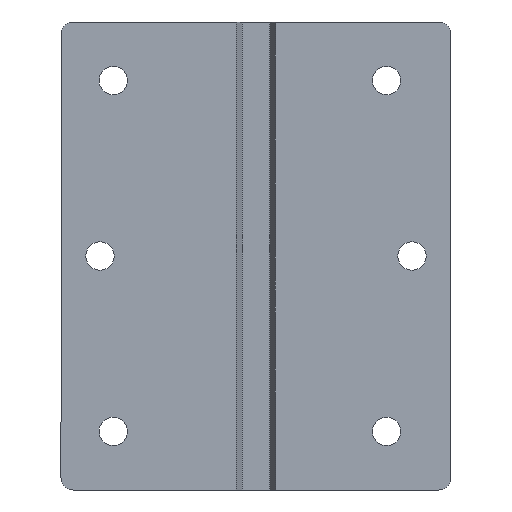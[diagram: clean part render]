
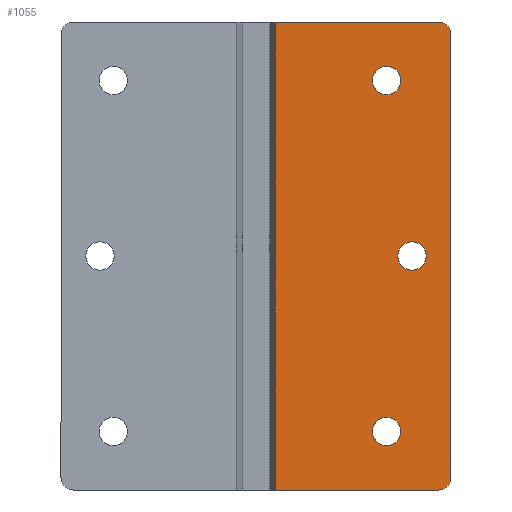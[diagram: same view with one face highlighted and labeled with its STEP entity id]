
A CAD part, front view. The second image highlights one B-rep face of the part: STEP entity #1055.
In plain terms, the highlighted planar face has unit normal (0, -1, 0).
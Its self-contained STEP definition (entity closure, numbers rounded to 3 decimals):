
#221=CARTESIAN_POINT('',(27.71,-2.38,0.0));
#222=VERTEX_POINT('',#221);
#231=CARTESIAN_POINT('',(23.09,-2.38,0.));
#232=VERTEX_POINT('',#231);
#233=CARTESIAN_POINT('',(25.4,-2.38,0.0));
#234=DIRECTION('',(0.0,1.0,0.0));
#235=DIRECTION('',(1.0,0.0,0.0));
#236=AXIS2_PLACEMENT_3D('',#233,#234,#235);
#237=CIRCLE('',#236,2.31);
#238=EDGE_CURVE('',#232,#222,#237,.T.);
#381=CARTESIAN_POINT('',(23.58,-2.38,-28.57));
#382=VERTEX_POINT('',#381);
#391=CARTESIAN_POINT('',(18.96,-2.38,-28.57));
#392=VERTEX_POINT('',#391);
#393=CARTESIAN_POINT('',(21.27,-2.38,-28.57));
#394=DIRECTION('',(0.0,1.0,0.0));
#395=DIRECTION('',(1.0,0.0,0.0));
#396=AXIS2_PLACEMENT_3D('',#393,#394,#395);
#397=CIRCLE('',#396,2.31);
#398=EDGE_CURVE('',#392,#382,#397,.T.);
#541=CARTESIAN_POINT('',(23.58,-2.38,28.57));
#542=VERTEX_POINT('',#541);
#551=CARTESIAN_POINT('',(18.96,-2.38,28.57));
#552=VERTEX_POINT('',#551);
#553=CARTESIAN_POINT('',(21.27,-2.38,28.57));
#554=DIRECTION('',(0.0,1.0,0.0));
#555=DIRECTION('',(1.0,0.0,0.0));
#556=AXIS2_PLACEMENT_3D('',#553,#554,#555);
#557=CIRCLE('',#556,2.31);
#558=EDGE_CURVE('',#552,#542,#557,.T.);
#642=CARTESIAN_POINT('',(21.27,-2.38,28.57));
#643=DIRECTION('',(0.0,1.0,0.0));
#644=DIRECTION('',(1.0,0.0,0.0));
#645=AXIS2_PLACEMENT_3D('',#642,#643,#644);
#646=CIRCLE('',#645,2.31);
#647=EDGE_CURVE('',#542,#552,#646,.T.);
#714=CARTESIAN_POINT('',(21.27,-2.38,-28.57));
#715=DIRECTION('',(0.0,1.0,0.0));
#716=DIRECTION('',(1.0,0.0,0.0));
#717=AXIS2_PLACEMENT_3D('',#714,#715,#716);
#718=CIRCLE('',#717,2.31);
#719=EDGE_CURVE('',#382,#392,#718,.T.);
#786=CARTESIAN_POINT('',(25.4,-2.38,0.0));
#787=DIRECTION('',(0.0,1.0,0.0));
#788=DIRECTION('',(1.0,0.0,0.0));
#789=AXIS2_PLACEMENT_3D('',#786,#787,#788);
#790=CIRCLE('',#789,2.31);
#791=EDGE_CURVE('',#222,#232,#790,.T.);
#908=CARTESIAN_POINT('',(3.175,-2.38,38.1));
#909=VERTEX_POINT('',#908);
#917=CARTESIAN_POINT('',(3.175,-2.38,-38.1));
#918=VERTEX_POINT('',#917);
#925=CARTESIAN_POINT('',(3.175,-2.38,38.1));
#926=DIRECTION('',(0.0,0.0,-1.0));
#927=VECTOR('',#926,76.2);
#928=LINE('',#925,#927);
#929=EDGE_CURVE('',#909,#918,#928,.T.);
#995=CARTESIAN_POINT('',(0.,-2.38,0.));
#996=DIRECTION('',(0.0,-1.0,0.0));
#997=DIRECTION('',(1.0,0.0,0.0));
#998=AXIS2_PLACEMENT_3D('',#995,#996,#997);
#999=PLANE('',#998);
#1000=ORIENTED_EDGE('',*,*,#929,.T.);
#1001=CARTESIAN_POINT('',(29.75,-2.38,-38.1));
#1002=VERTEX_POINT('',#1001);
#1003=CARTESIAN_POINT('',(29.75,-2.38,-38.1));
#1004=DIRECTION('',(-1.0,0.0,0.0));
#1005=VECTOR('',#1004,26.575);
#1006=LINE('',#1003,#1005);
#1007=EDGE_CURVE('',#1002,#918,#1006,.T.);
#1008=ORIENTED_EDGE('',*,*,#1007,.F.);
#1009=CARTESIAN_POINT('',(31.75,-2.38,-36.1));
#1010=VERTEX_POINT('',#1009);
#1011=CARTESIAN_POINT('',(29.75,-2.38,-36.1));
#1012=DIRECTION('',(0.0,1.0,0.0));
#1013=DIRECTION('',(1.0,0.0,0.0));
#1014=AXIS2_PLACEMENT_3D('',#1011,#1012,#1013);
#1015=CIRCLE('',#1014,2.0);
#1016=EDGE_CURVE('',#1010,#1002,#1015,.T.);
#1017=ORIENTED_EDGE('',*,*,#1016,.F.);
#1018=CARTESIAN_POINT('',(31.75,-2.38,36.1));
#1019=VERTEX_POINT('',#1018);
#1020=CARTESIAN_POINT('',(31.75,-2.38,36.1));
#1021=DIRECTION('',(0.0,0.0,-1.0));
#1022=VECTOR('',#1021,72.2);
#1023=LINE('',#1020,#1022);
#1024=EDGE_CURVE('',#1019,#1010,#1023,.T.);
#1025=ORIENTED_EDGE('',*,*,#1024,.F.);
#1026=CARTESIAN_POINT('',(29.75,-2.38,38.1));
#1027=VERTEX_POINT('',#1026);
#1028=CARTESIAN_POINT('',(29.75,-2.38,36.1));
#1029=DIRECTION('',(0.0,1.0,0.0));
#1030=DIRECTION('',(1.0,0.0,0.0));
#1031=AXIS2_PLACEMENT_3D('',#1028,#1029,#1030);
#1032=CIRCLE('',#1031,2.0);
#1033=EDGE_CURVE('',#1027,#1019,#1032,.T.);
#1034=ORIENTED_EDGE('',*,*,#1033,.F.);
#1035=CARTESIAN_POINT('',(3.175,-2.38,38.1));
#1036=DIRECTION('',(1.0,0.0,0.0));
#1037=VECTOR('',#1036,26.575);
#1038=LINE('',#1035,#1037);
#1039=EDGE_CURVE('',#909,#1027,#1038,.T.);
#1040=ORIENTED_EDGE('',*,*,#1039,.F.);
#1041=EDGE_LOOP('',(#1000,#1008,#1017,#1025,#1034,#1040));
#1042=FACE_OUTER_BOUND('',#1041,.T.);
#1043=ORIENTED_EDGE('',*,*,#647,.T.);
#1044=ORIENTED_EDGE('',*,*,#558,.T.);
#1045=EDGE_LOOP('',(#1043,#1044));
#1046=FACE_BOUND('',#1045,.T.);
#1047=ORIENTED_EDGE('',*,*,#719,.T.);
#1048=ORIENTED_EDGE('',*,*,#398,.T.);
#1049=EDGE_LOOP('',(#1047,#1048));
#1050=FACE_BOUND('',#1049,.T.);
#1051=ORIENTED_EDGE('',*,*,#791,.T.);
#1052=ORIENTED_EDGE('',*,*,#238,.T.);
#1053=EDGE_LOOP('',(#1051,#1052));
#1054=FACE_BOUND('',#1053,.T.);
#1055=ADVANCED_FACE('',(#1042,#1046,#1050,#1054),#999,.T.);
